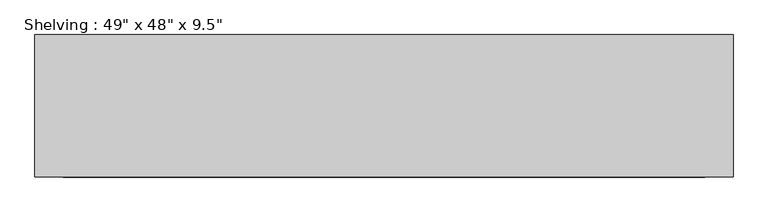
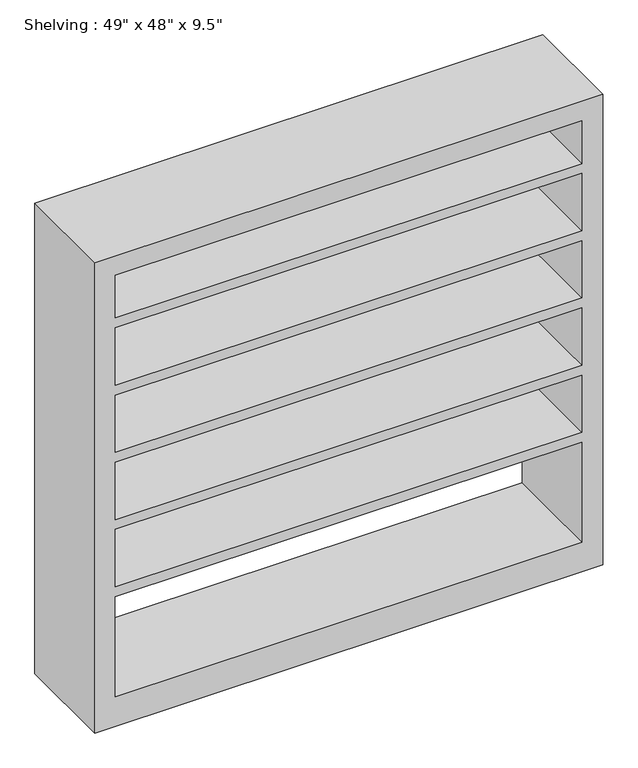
"""IFC4 building model written with IfcOpenShell, lengths in millimetres: furniture geometry."""

from ifc_helpers import new_model, si_unit, frame, origin, place, context, project, spatial, polyline, outline, extrude, source, transform, mapped, element, save


def furniture_3fcbf438(model_context):
    return source(origin(), model_context, "Body", "SweptSolid", [
        extrude(outline(polyline([(0.0, 622.3), (1219.2, 622.3), (1219.2, -622.3), (0.0, -622.3), (0.0, 622.3)]), holes=[polyline([(1168.4, 571.5), (1057.7285714, 571.5), (1057.7285714, -571.5), (1168.4, -571.5), (1168.4, 571.5)]), polyline([(76.2, 571.5), (76.2, -571.5), (335.6428571, -571.5), (335.6428571, 571.5), (76.2, 571.5)]), polyline([(709.3857143, -571.5), (858.1571429, -571.5), (858.1571429, 571.5), (709.3857143, 571.5), (709.3857143, -571.5)]), polyline([(1032.3285714, 571.5), (883.5571429, 571.5), (883.5571429, -571.5), (1032.3285714, -571.5), (1032.3285714, 571.5)]), polyline([(683.9857143, 571.5), (535.2142857, 571.5), (535.2142857, -571.5), (683.9857143, -571.5), (683.9857143, 571.5)]), polyline([(509.8142857, 571.5), (361.0428571, 571.5), (361.0428571, -571.5), (509.8142857, -571.5), (509.8142857, 571.5)])]), frame((0.0, -431.8, 0.0), z_axis=(0.0, 1.0, 0.0), x_axis=(0.0, 0.0, 1.0)), (0.0, 0.0, 1.0), 254.0),
    ])


if __name__ == "__main__":
    model = new_model("IFC4")
    model_context = context("Model", 3, world=origin())
    ifc_project = project(units=[si_unit("LENGTHUNIT", "METRE", prefix="MILLI")], contexts=[model_context])
    site = spatial("IfcSite", under=ifc_project)
    building = spatial("IfcBuilding", under=site)
    placement = place(None, origin())
    furniture_shape = furniture_3fcbf438(model_context)
    element("IfcFurniture", 1, ObjectType="Shelving : 49\" x 48\" x 9.5\"", at=placement, inside=building, context=model_context, shape_type="MappedRepresentation", body=[
        mapped(furniture_shape, transform((0.0, 0.0, 0.0), x_axis=(1.0, 0.0, 0.0), y_axis=(0.0, 1.0, 0.0), z_axis=(0.0, 0.0, 1.0))),
    ])
    save(model, "model.ifc")
